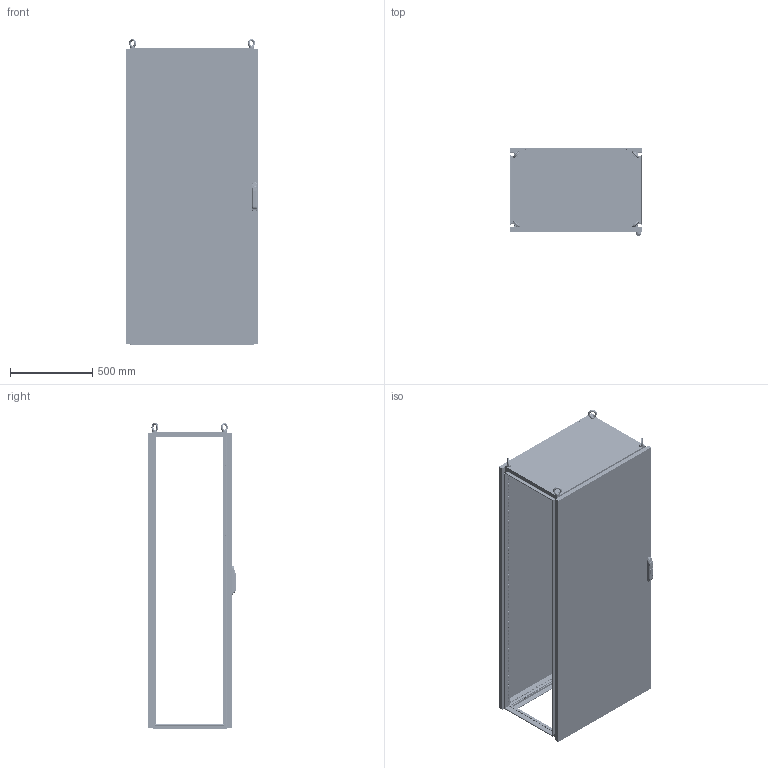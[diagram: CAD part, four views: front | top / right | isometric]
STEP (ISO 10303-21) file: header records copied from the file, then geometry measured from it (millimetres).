
FILE_DESCRIPTION(/* description */ ('Unknown'),/* implementation_level */ '2;1');
FILE_NAME(/* name */ 'MCA08018050',/* time_stamp */ '2025-03-07T08:40:24+01:00',/* author */ ('Unknown'),/* organization */ ('Unknown'),/* preprocessor_version */ 'ST-DEVELOPER v19.4',/* originating_system */ 'Solid Edge',/* authorisation */ 'Unknown');
FILE_SCHEMA (('CONFIG_CONTROL_DESIGN'));
Products named in the file (46): MCA08018050; F0000001.24; AE00198.03; M000X000.69; M0000000.29; AE00500.10; M000X000.27; M0000000.43; M0000000.44; M0000000.06; AE00219.03; AE00715.01; M000X000.21; M0000000.36; F000X000.92; F000X000.93; F0000000.80; F0000000.07; AE00100.03_oa_0; AE00100.03_oa_1; AE00100.03_oa_2; AE00100.03_oa_3; M0000000.37; AE00701.03; F0000000.13; F000X000.94; F000X000.95; F000X000.96; F0000000.81; F000X000.71; F0000002.21; F0000002.17; AE01400.01; AE00413.05; AE00417.01; F0000000.12; AE00222.15; AE00316.01; AE00992.10_oa_4; AE00992.31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
Assembly tree (190 placements, depth 5):
  MCA08018050
    F0000001.24  x4
    AE00198.03  x16
    M000X000.69
      M0000000.29  x4
      AE00500.10  x48
      M000X000.27  x2
        M0000000.43
        M0000000.44
        M0000000.06
    AE00219.03  x8
    AE00715.01  x4
    M000X000.21
      M0000000.36
    F000X000.92
      F000X000.93
        F0000000.80
      F0000000.07  x2
      AE00100.03_oa_0
      AE00100.03_oa_1
      AE00100.03_oa_2
      AE00100.03_oa_3
    M0000000.37  x8
    AE00701.03  x4
    F0000000.13  x4
    F000X000.94
      F000X000.95
        F000X000.96
          F0000000.81
        F000X000.71
          F0000002.21  x2
          F0000002.17  x2
          AE01400.01  x4
        AE00413.05  x4
        AE00417.01  x2
      F0000000.12  x8
      AE00222.15  x8
      AE00316.01  x8
      AE00992.10_oa_4
      AE00992.31
      AE00315.01  x4
      AE00992.74   x2
      AE00992.18  x4
      AE00992.16
      AE00636.02  x8
    F0000000.08  x4
Bounding box: 800 x 538.2 x 1856.92 mm (x, y, z)
Volume: 14721329.4 mm3; surface area: 13170536.6 mm2
Topology: 199 solids, 199 shells, 9940 faces, 28348 edges, 18955 vertices
Faces by surface type: plane 7105, cylinder 2229, cone 534, torus 42, sphere 16, bspline 14
Full cylindrical faces by diameter (mm): 2 x4, 3 x1, 3.242 x2, 4 x12, 4.134 x5, 4.25 x182, 4.5 x896, 4.917 x65, 4.918 x8, 5 x6, 6 x58, 6.1 x20, 6.2 x8, 6.5 x20, 7.5 x2, 8.3 x8, 8.5 x2, 9 x48, 10.106 x8, 10.5 x16, 11.8 x8, 12 x16, 13 x4, 14 x1, 16 x1, 17 x1, 23 x2, 30 x4
Entity records: 77422 total; most frequent: CARTESIAN_POINT 13561, ORIENTED_EDGE 11972, DIRECTION 11938, EDGE_CURVE 5986, LINE 4704, VECTOR 4704, VERTEX_POINT 4244, FACE_BOUND 3896
